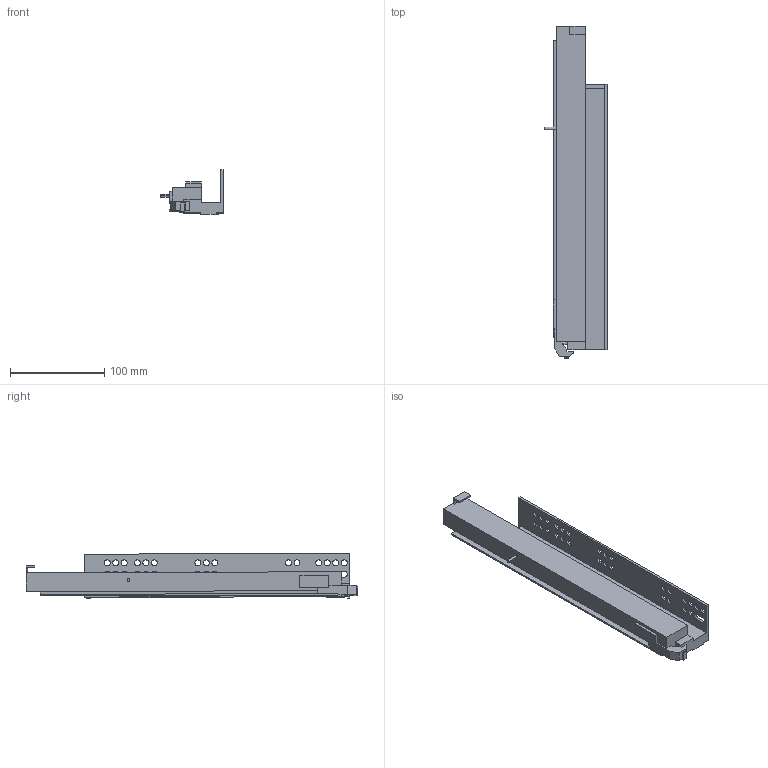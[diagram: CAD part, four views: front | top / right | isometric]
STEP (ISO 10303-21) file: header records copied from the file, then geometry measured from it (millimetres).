
FILE_DESCRIPTION (( 'STEP AP203' ), '1' );
FILE_NAME ('IMOS_Dynapro_Tipmatic_D51_NL_0_RE.STEP', '2013-03-22T12:15:53', ( 'Grass GmbH' ), ( 'Grass GmbH' ), 'SwSTEP 2.0', 'SolidWorks 2012', '' );
FILE_SCHEMA (( 'CONFIG_CONTROL_DESIGN' ));
Length unit declared in the file: millimetre
Products named in the file (1): IMOS_Dynapro_Tipmatic_D51_NL_0_RE
Bounding box: 65.92 x 351.55 x 47.53 mm (x, y, z)
Volume: 352286.1 mm3; surface area: 83126.6 mm2
Topology: 1 solids, 1 shells, 162 faces, 464 edges, 309 vertices
Faces by surface type: plane 97, cylinder 65
Entity records: 5503 total; most frequent: CARTESIAN_POINT 936, ORIENTED_EDGE 928, DIRECTION 920, EDGE_CURVE 464, LINE 334, VECTOR 334, VERTEX_POINT 309, AXIS2_PLACEMENT_3D 293
